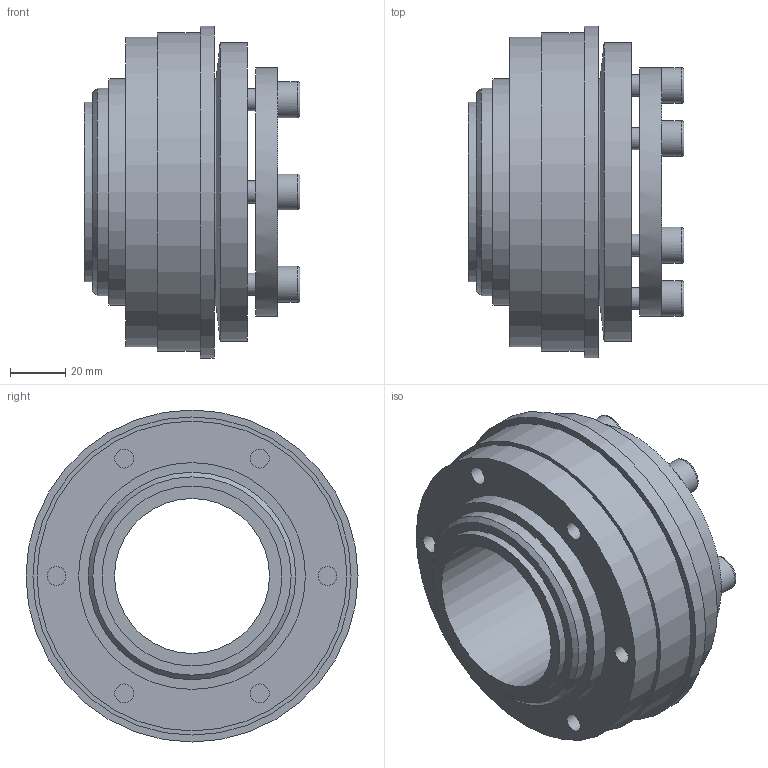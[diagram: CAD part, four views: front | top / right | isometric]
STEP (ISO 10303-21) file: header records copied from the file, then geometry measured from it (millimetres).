
FILE_DESCRIPTION(/* description */ ('STEP AP214'),/* implementation_level */ '2;1');
FILE_NAME(/* name */ 'C:\Diequa Files\DieQua Coupling\TH\STP\TH.300.70.WDG.#.stp',/* time_stamp */ '2019-02-13T16:13:37-06:00',/* author */ ('DiequaCAD'),/* organization */ (''),/* preprocessor_version */ 'ST-DEVELOPER v17.2',/* originating_system */ 'Autodesk Inventor 2019',/* authorisation */ ' ');
FILE_SCHEMA (('AUTOMOTIVE_DESIGN { 1 0 10303 214 3 1 1 }'));
Length unit declared in the file: millimetre
Products named in the file (1): TH.300.70.WDG.#
Bounding box: 78 x 120 x 120 mm (x, y, z)
Volume: 392389 mm3; surface area: 69564.4 mm2
Topology: 1 solids, 1 shells, 101 faces, 228 edges, 149 vertices
Faces by surface type: plane 64, cylinder 29, torus 6, cone 2
Full cylindrical faces by diameter (mm): 6.8 x6, 8 x6, 13 x6, 56 x2, 65 x1, 75 x1, 82 x2, 90 x1, 108 x1, 112 x1, 115 x1, 120 x1
Entity records: 2917 total; most frequent: DIRECTION 521, CARTESIAN_POINT 479, ORIENTED_EDGE 456, EDGE_CURVE 228, AXIS2_PLACEMENT_3D 191, VERTEX_POINT 149, LINE 139, VECTOR 139
